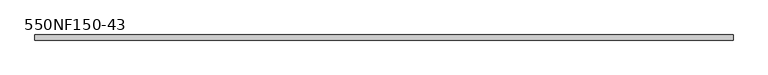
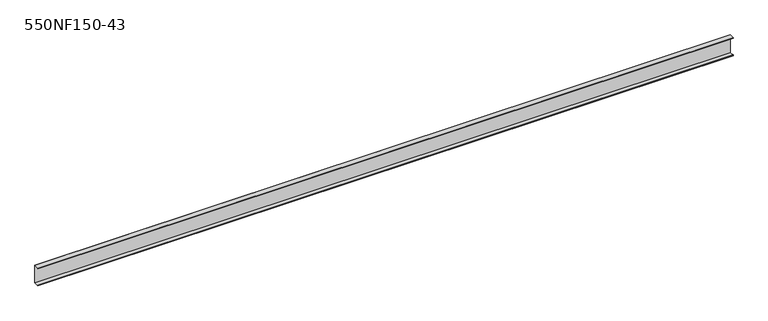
"""IFC4 building model written with IfcOpenShell, lengths in millimetres: beam geometry, BIMSF-SSMA-S : 550NF150-43."""

from ifc_helpers import new_model, si_unit, frame, origin, place, context, project, spatial, polyline, outline, extrude, source, transform, mapped, element, save


def beam_550nf150_43_3a52a995(model_context):
    return source(origin(), model_context, "Body", "SweptSolid", [
        extrude(outline(polyline([(19.05, 69.85), (19.05, -69.85), (-19.05, -69.85), (-19.05, -65.0748), (-17.9003158, -65.0748), (-17.9003158, -68.7003158), (17.9003158, -68.7003158), (17.9003158, 68.7003158), (-17.9003158, 68.7003158), (-17.9003158, 65.0748), (-19.05, 65.0748), (-19.05, 69.85), (19.05, 69.85)])), frame((-2582.6094849, 0.0, 0.0), z_axis=(1.0, 0.0, 0.0), x_axis=(0.0, 1.0, 0.0)), (0.0, 0.0, 1.0), 5165.2189699),
    ])


if __name__ == "__main__":
    model = new_model("IFC4")
    model_context = context("Model", 3, world=origin())
    ifc_project = project(units=[si_unit("LENGTHUNIT", "METRE", prefix="MILLI")], contexts=[model_context])
    site = spatial("IfcSite", under=ifc_project)
    building = spatial("IfcBuilding", under=site)
    placement = place(None, origin())
    beam_550nf150_43_shape = beam_550nf150_43_3a52a995(model_context)
    element("IfcBeam", 1, ObjectType="BIMSF-SSMA-S : 550NF150-43", at=placement, inside=building, context=model_context, shape_type="MappedRepresentation", body=[
        mapped(beam_550nf150_43_shape, transform((0.0, 0.0, 0.0), x_axis=(1.0, 0.0, 0.0), y_axis=(0.0, 1.0, 0.0), z_axis=(0.0, 0.0, 1.0))),
    ])
    save(model, "model.ifc")
